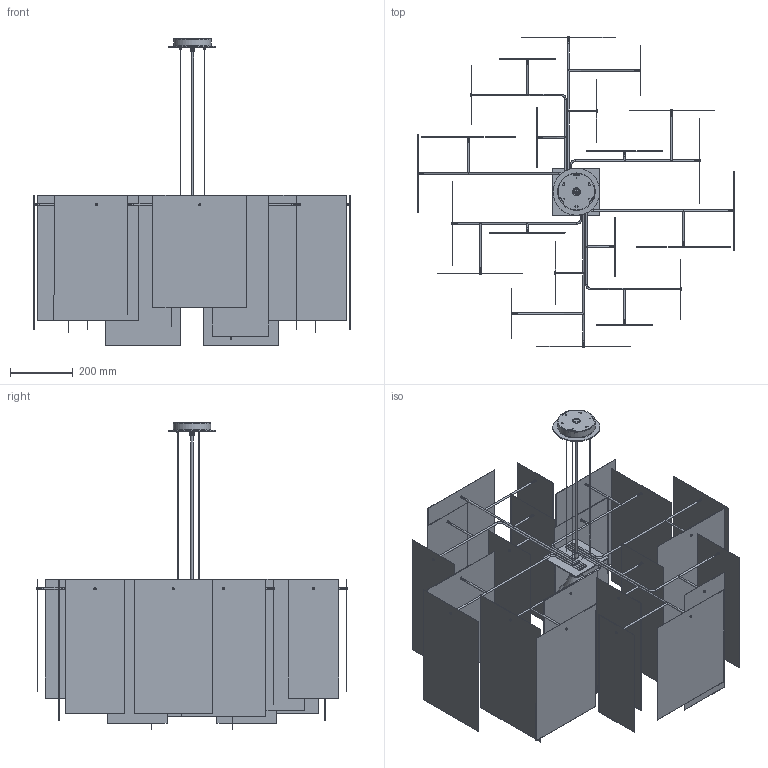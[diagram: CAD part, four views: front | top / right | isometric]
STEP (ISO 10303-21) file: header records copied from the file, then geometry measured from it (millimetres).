
FILE_DESCRIPTION((''),'2;1');
FILE_NAME('F:\KUBO SRL 2015\LAMPADA ALEXANDRA\DA FRANZOLINI DEL 27-02-15\ALEXANDRA 1.stp','2015-08-17T12:05:29',('Utente'),(''),'Autodesk Inventor 11','Autodesk Inventor 11','');
FILE_SCHEMA(('AUTOMOTIVE_DESIGN { 1 0 10303 214 1 1 1 1 }'));
Length unit declared in the file: millimetre
Products named in the file (39): ALEXANDRA 1; PIASTRA 1; B1; BRACCIO 1; F4; F8; PERNO2; BICCHIERINO; PORTALAMPADA E27; LAMPADINA GLOBO; BLOCCACAVO; ASSIEME ROSONE ALEX; STAFFA A SOFFITTO; STAFFA 2; REGOLATORE; ROSONE2; ALEX ROSONE 1; ALEX ROSONE 2; TIGE 25; BLOCCO; M8; AS 1969  (Rondella interna di bloccaggio con denti) M10; CAVO; B2; F2; F5; F9; B3; F3; F10; F11; B4; F1; F6; F7; CAVO ELETTRICO SOSPENSIONE
Assembly tree (56 placements, depth 4):
  ALEXANDRA 1
    PIASTRA 1
    B1  x2
      BRACCIO 1
      F4
      F8
      PERNO2
    BICCHIERINO
    PORTALAMPADA E27
    LAMPADINA GLOBO
    BLOCCACAVO
    ASSIEME ROSONE ALEX
      STAFFA A SOFFITTO
      STAFFA 2
      REGOLATORE  x3
      ROSONE2
        ALEX ROSONE 1
        ALEX ROSONE 2
      TIGE 25
      BLOCCO
      M8
      AS 1969  (Rondella interna di bloccaggio con denti) M10
    CAVO  x3
    B2  x2
      BRACCIO 1
      F2
      F5
      F9
      PERNO2
    B3  x2
      BRACCIO 1
      F3
      F10
      F11
      PERNO2
    B4  x2
      BRACCIO 1
      F1
      F6
      F7
      PERNO2
    CAVO ELETTRICO SOSPENSIONE
Bounding box: 1013 x 991 x 981.27 mm (x, y, z)
Volume: 3869801 mm3; surface area: 4721940.3 mm2
Topology: 72 solids, 72 shells, 1453 faces, 3628 edges, 2353 vertices
Faces by surface type: plane 680, cylinder 394, cone 174, bspline 144, torus 60, sphere 1
Full cylindrical faces by diameter (mm): 1.5 x3, 2 x3, 3.2 x22, 4.1 x22, 5 x22, 6 x31, 7 x23, 8 x2, 8.5 x1, 8.917 x1, 9.5 x4, 10 x2, 12 x3, 18 x1, 20 x1, 24 x1, 27 x1, 35.5 x1, 38 x1, 40 x1, 42 x1, 117 x1, 117.5 x1, 120 x1, 150 x1
Entity records: 25039 total; most frequent: CARTESIAN_POINT 6149, DIRECTION 3832, ORIENTED_EDGE 3542, EDGE_CURVE 1771, AXIS2_PLACEMENT_3D 1469, VERTEX_POINT 1191, EDGE_LOOP 1056, VECTOR 894
